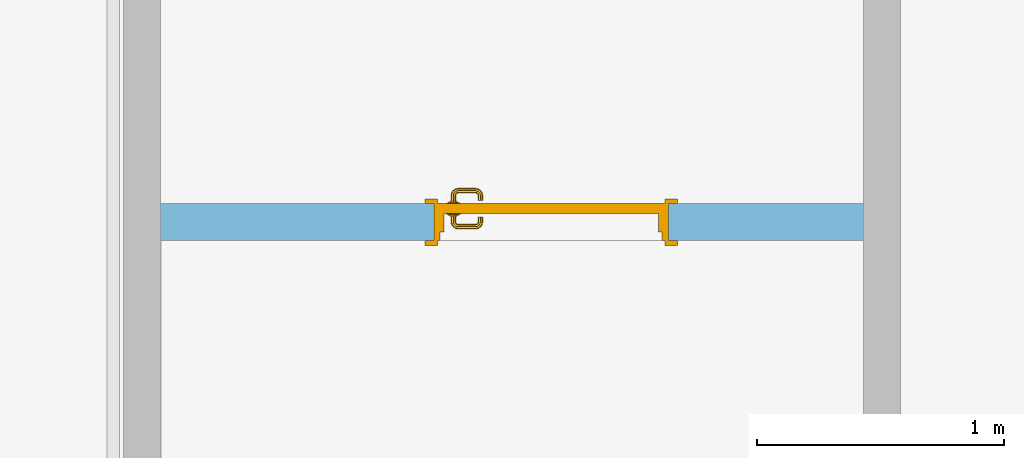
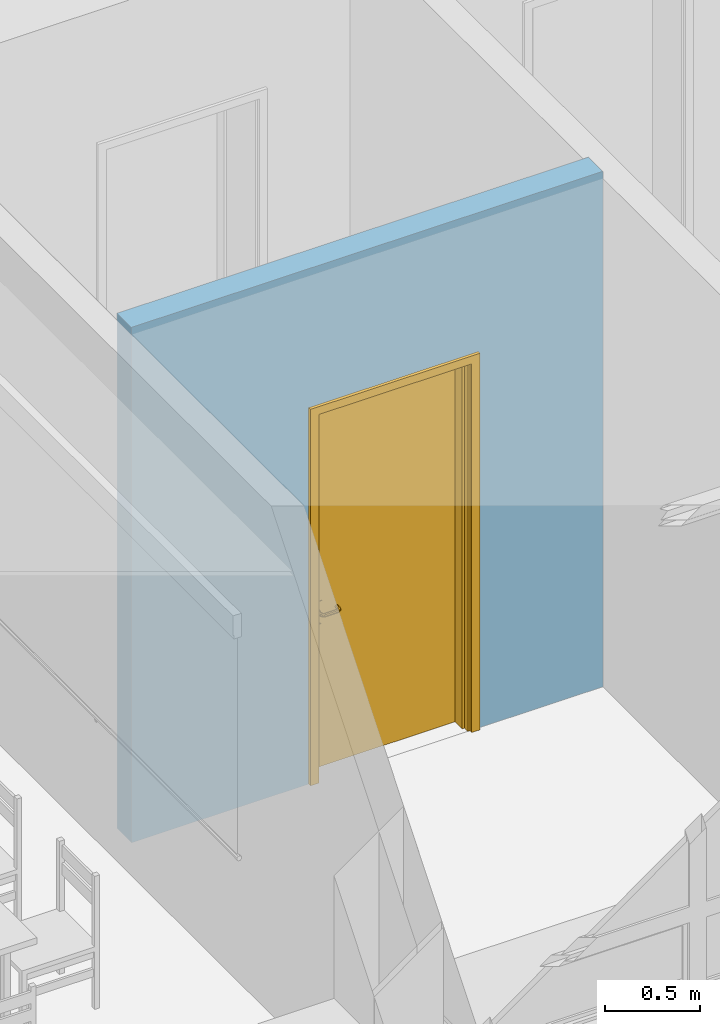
# One storey, part 55 of 194: 1 door, 1 opening, plus 1 element that does not belong to this part.
"""IFC2X3 building model written with IfcOpenShell, lengths in millimetres."""

from ifc_helpers import new_model, entity, si_unit, converted_unit, derived_unit, money_unit, direction, frame, origin_with_axes, origin_2d_with_axis, place, context, subcontext, project, spatial, polyline, rectangle, outline, extrude, open_shell, faceted_brep, surface_model, material, layer, layer_set, layer_usage, type_object, element, fill, save


model = new_model("IFC2X3")

# Units and contexts
model_context = context("Model", 3, precision=1e-05, world=origin_with_axes(), true_north=direction((0.0, 1.0)))
body_context = subcontext(model_context, "Body", "Model", "MODEL_VIEW")
ifc_project = project(units=[si_unit("LENGTHUNIT", "METRE", prefix="MILLI"), si_unit("AREAUNIT", "SQUARE_METRE"), si_unit("VOLUMEUNIT", "CUBIC_METRE"), converted_unit("PLANEANGLEUNIT", "DEGREE", entity("IfcPlaneAngleMeasure", 0.0174532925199), si_unit("PLANEANGLEUNIT", "RADIAN"), dimensions=[0, 0, 0, 0, 0, 0, 0]), si_unit("SOLIDANGLEUNIT", "STERADIAN"), money_unit("EUR"), converted_unit("TIMEUNIT", "Year", entity("IfcTimeMeasure", 31556926.0), si_unit("TIMEUNIT", "SECOND"), dimensions=[0, 0, 1, 0, 0, 0, 0]), si_unit("MASSUNIT", "GRAM", prefix="KILO"), si_unit("THERMODYNAMICTEMPERATUREUNIT", "DEGREE_CELSIUS"), si_unit("LUMINOUSINTENSITYUNIT", "LUMEN"), si_unit("ENERGYUNIT", "JOULE", prefix="MEGA"), derived_unit("THERMALCONDUCTANCEUNIT", [(si_unit("POWERUNIT", "WATT"), 1), (si_unit("LENGTHUNIT", "METRE"), -1), (si_unit("THERMODYNAMICTEMPERATUREUNIT", "KELVIN"), -1)]), derived_unit("SPECIFICHEATCAPACITYUNIT", [(si_unit("ENERGYUNIT", "JOULE"), 1), (si_unit("MASSUNIT", "GRAM", prefix="KILO"), -1), (si_unit("THERMODYNAMICTEMPERATUREUNIT", "KELVIN"), -1)]), derived_unit("MASSDENSITYUNIT", [(si_unit("MASSUNIT", "GRAM", prefix="KILO"), 1), (si_unit("VOLUMEUNIT", "CUBIC_METRE"), -1)])], contexts=[model_context])

# Site, building, storey
site_placement = place(None, origin_with_axes())
site = spatial("IfcSite", under=ifc_project, at=site_placement, Name="Site", CompositionType="ELEMENT")
building_placement = place(site_placement, origin_with_axes())
building = spatial("IfcBuilding", under=site, at=building_placement, Name="Building", CompositionType="ELEMENT")
storey_placement = place(building_placement, frame((0.0, 0.0, 3000.0), z_axis=(0.0, 0.0, 1.0), x_axis=(1.0, 0.0, 0.0)))
storey = spatial("IfcBuildingStorey", under=building, at=storey_placement, Name="2 KORRUS", CompositionType="ELEMENT", Elevation=3000.0)

# Wall, opening, door
ifc_material = material(Name="Kivi -  Uus Konstruktsioon")
ifc_layer = layer(ifc_material, 150.0, ventilated="UNKNOWN")
ifc_layer_set = layer_set([ifc_layer], Name="uus ss 150")
ifc_layer_usage = layer_usage(ifc_layer_set, "AXIS2", "NEGATIVE", 0.0)
wall_type = type_object("IfcWallType", Name="SS-1", PredefinedType="NOTDEFINED")
wall_placement = place(storey_placement, frame((49155.1743177, 38181.6242698, 0.0), z_axis=(0.0, 0.0, 1.0), x_axis=(1.0, 0.0, 0.0)))
wall = element("IfcWallStandardCase", 1, at=wall_placement, inside=storey, type_object=wall_type, material=ifc_layer_usage, Name="sahti sein", context=body_context, shape_type="SweptSolid", body=[
    extrude(outline(polyline([(0.0, -150.0), (2850.0, -150.0), (2850.0, 0.0), (0.0, 0.0), (0.0, -150.0)])), origin_with_axes(), (0.0, 0.0, 1.0), 3294.8304041),
])
opening_placement = place(wall_placement, frame((1584.04536966, 0.0, 0.0), z_axis=(0.0, 0.0, 1.0), x_axis=(1.0, 0.0, 0.0)))
opening = element("IfcOpeningElement", 2, at=opening_placement, cuts=wall, Name="Siseuks * Door 22", context=body_context, shape_type="SweptSolid", body=[
    extrude(rectangle(XDim=950.0, YDim=2370.0, at=origin_2d_with_axis()), frame((0.0, -150.0, 1185.0), z_axis=(0.0, 1.0, 0.0), x_axis=(1.0, 0.0, 0.0)), (0.0, 0.0, 1.0), 450.0),
    extrude(rectangle(XDim=1024.0, YDim=2407.0, at=origin_2d_with_axis()), frame((0.0, -150.0, 1203.5), z_axis=(0.0, 1.0, 0.0), x_axis=(1.0, 0.0, 0.0)), (0.0, 0.0, -1.0), 150.0),
    extrude(rectangle(XDim=1024.0, YDim=2407.0, at=origin_2d_with_axis()), frame((0.0, 0.0, 1203.5), z_axis=(0.0, -1.0, 0.0), x_axis=(1.0, 0.0, 0.0)), (0.0, 0.0, -1.0), 150.0),
])
door_style = type_object("IfcDoorStyle", Name="SU-B220B   950×2\xa0370", ConstructionType="NOTDEFINED", OperationType="SINGLE_SWING_RIGHT", ParameterTakesPrecedence=False, Sizeable=False)
door_placement = place(opening_placement, frame((-475.0, 0.0, 0.0), z_axis=(0.0, 0.0, 1.0), x_axis=(1.0, 0.0, 0.0)))
door = element("IfcDoor", 3, at=door_placement, inside=storey, type_object=door_style, Name="Siseuks * Door 22", OverallHeight=2370.0, OverallWidth=950.0, context=body_context, shape_type="SurfaceModel", body=[
    faceted_brep([(0.0, -115.0, 0.0), (25.0, -115.0, 0.0), (25.0, -150.0, 0.0), (0.0, -150.0, 0.0), (0.0, -115.0, 2370.0), (25.0, -115.0, 2345.0), (25.0, -150.0, 2345.0), (0.0, -150.0, 2370.0)], [[[0, 1, 2, 3]], [[0, 4, 5, 1]], [[1, 5, 6, 2]], [[3, 2, 6, 7]], [[4, 0, 3, 7]], [[5, 4, 7, 6]]]),
    faceted_brep([(950.0, -115.0, 2370.0), (925.0, -115.0, 2345.0), (925.0, -150.0, 2345.0), (950.0, -150.0, 2370.0), (950.0, -115.0, 0.0), (925.0, -115.0, 0.0), (925.0, -150.0, 0.0), (950.0, -150.0, 0.0)], [[[0, 1, 2, 3]], [[0, 4, 5, 1]], [[1, 5, 6, 2]], [[3, 2, 6, 7]], [[4, 0, 3, 7]], [[5, 4, 7, 6]]]),
    faceted_brep([(25.0, -115.0, 2345.0), (925.0, -115.0, 2345.0), (925.0, -150.0, 2345.0), (25.0, -150.0, 2345.0), (0.0, -115.0, 2370.0), (950.0, -115.0, 2370.0), (950.0, -150.0, 2370.0), (0.0, -150.0, 2370.0)], [[[0, 1, 2, 3]], [[0, 4, 5, 1]], [[1, 5, 6, 2]], [[3, 2, 6, 7]], [[4, 0, 3, 7]], [[5, 4, 7, 6]]]),
    faceted_brep([(-36.9999999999, -169.0, 0.0), (-36.9999999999, -150.0, 0.0), (13.0, -150.0, 0.0), (13.0, -169.0, 0.0), (-36.9999999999, -169.0, 2407.0), (-36.9999999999, -150.0, 2407.0), (13.0, -150.0, 2357.0), (13.0, -169.0, 2357.0)], [[[0, 1, 2, 3]], [[4, 5, 1, 0]], [[1, 5, 6, 2]], [[3, 2, 6, 7]], [[0, 3, 7, 4]], [[7, 6, 5, 4]]]),
    faceted_brep([(987.0, -169.0, 2407.0), (987.0, -150.0, 2407.0), (937.0, -150.0, 2357.0), (937.0, -169.0, 2357.0), (987.0, -169.0, 0.0), (987.0, -150.0, 0.0), (937.0, -150.0, 0.0), (937.0, -169.0, 0.0)], [[[0, 1, 2, 3]], [[4, 5, 1, 0]], [[1, 5, 6, 2]], [[3, 2, 6, 7]], [[0, 3, 7, 4]], [[7, 6, 5, 4]]]),
    faceted_brep([(-36.9999999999, -169.0, 2407.0), (-36.9999999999, -150.0, 2407.0), (13.0, -150.0, 2357.0), (13.0, -169.0, 2357.0), (987.0, -169.0, 2407.0), (987.0, -150.0, 2407.0), (937.0, -150.0, 2357.0), (937.0, -169.0, 2357.0)], [[[0, 1, 2, 3]], [[4, 5, 1, 0]], [[1, 5, 6, 2]], [[3, 2, 6, 7]], [[0, 3, 7, 4]], [[7, 6, 5, 4]]]),
    faceted_brep([(-36.9999999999, 19.0000000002, 0.0), (13.0, 19.0000000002, 0.0), (13.0, 0.0, 0.0), (-36.9999999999, 0.0, 0.0), (-36.9999999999, 19.0000000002, 2407.0), (13.0, 19.0000000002, 2357.0), (13.0, 0.0, 2357.0), (-36.9999999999, 0.0, 2407.0)], [[[0, 1, 2, 3]], [[0, 4, 5, 1]], [[1, 5, 6, 2]], [[3, 2, 6, 7]], [[4, 0, 3, 7]], [[5, 4, 7, 6]]]),
    faceted_brep([(987.0, 19.0000000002, 2407.0), (937.0, 19.0000000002, 2357.0), (937.0, 0.0, 2357.0), (987.0, 0.0, 2407.0), (987.0, 19.0000000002, 0.0), (937.0, 19.0000000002, 0.0), (937.0, 0.0, 0.0), (987.0, 0.0, 0.0)], [[[0, 1, 2, 3]], [[0, 4, 5, 1]], [[1, 5, 6, 2]], [[3, 2, 6, 7]], [[4, 0, 3, 7]], [[5, 4, 7, 6]]]),
    faceted_brep([(-36.9999999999, 19.0000000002, 2407.0), (13.0, 19.0000000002, 2357.0), (13.0, 0.0, 2357.0), (-36.9999999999, 0.0, 2407.0), (987.0, 19.0000000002, 2407.0), (937.0, 19.0000000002, 2357.0), (937.0, 0.0, 2357.0), (987.0, 0.0, 2407.0)], [[[0, 1, 2, 3]], [[0, 4, 5, 1]], [[1, 5, 6, 2]], [[3, 2, 6, 7]], [[4, 0, 3, 7]], [[5, 4, 7, 6]]]),
    faceted_brep([(40.0000000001, -40.0, 0.0), (40.0000000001, -40.0, 2330.0), (40.0000000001, -115.0, 2330.0), (40.0000000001, -115.0, 0.0), (28.0, -40.0, 2330.0), (28.0, -40.0, 0.0), (28.0, 0.0, 2330.0), (0.0, 0.0, 2330.0), (0.0, -115.0, 2330.0), (0.0, -115.0, 0.0), (0.0, 0.0, 0.0), (28.0, 0.0, 0.0)], [[[0, 1, 2, 3]], [[4, 1, 0, 5]], [[4, 6, 7, 8, 2, 1]], [[3, 2, 8, 9]], [[5, 0, 3, 9, 10, 11]], [[6, 4, 5, 11]], [[6, 11, 10, 7]], [[10, 9, 8, 7]]]),
    faceted_brep([(922.0, -40.0, 2330.0), (910.0, -40.0, 2330.0), (910.0, -115.0, 2330.0), (950.0, -115.0, 2330.0), (950.0, 0.0, 2330.0), (922.0, 0.0, 2330.0), (922.0, -40.0, 0.0), (910.0, -40.0, 0.0), (910.0, -115.0, 0.0), (950.0, -115.0, 0.0), (950.0, 0.0, 0.0), (922.0, 0.0, 0.0)], [[[0, 1, 2, 3, 4, 5]], [[1, 0, 6, 7]], [[1, 7, 8, 2]], [[3, 2, 8, 9]], [[4, 3, 9, 10]], [[11, 5, 4, 10]], [[0, 5, 11, 6]], [[6, 11, 10, 9, 8, 7]]]),
    faceted_brep([(28.0, 0.0, 2342.0), (28.0, 0.0, 2330.0), (0.0, 0.0, 2330.0), (0.0, 0.0, 2370.0), (950.0, 0.0, 2370.0), (950.0, 0.0, 2330.0), (922.0, 0.0, 2330.0), (922.0, 0.0, 2342.0), (28.0, -40.0, 2342.0), (28.0, -40.0, 2330.0), (40.0000000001, -40.0, 2330.0), (40.0000000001, -115.0, 2330.0), (0.0, -115.0, 2330.0), (0.0, -115.0, 2370.0), (950.0, -115.0, 2370.0), (950.0, -115.0, 2330.0), (922.0, -40.0, 2330.0), (910.0, -115.0, 2330.0), (910.0, -40.0, 2330.0), (922.0, -40.0, 2342.0)], [[[0, 1, 2, 3, 4, 5, 6, 7]], [[1, 0, 8, 9]], [[9, 10, 11, 12, 2, 1]], [[2, 12, 13, 3]], [[3, 13, 14, 4]], [[4, 14, 15, 5]], [[16, 6, 5, 15, 17, 18]], [[7, 6, 16, 19]], [[0, 7, 19, 8]], [[16, 18, 10, 9, 8, 19]], [[10, 18, 17, 11]], [[17, 15, 14, 13, 12, 11]]]),
    faceted_brep([(49.5, -40.0, 1060.0), (49.5, -42.9999999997, 1060.0), (106.5, -42.9999999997, 1060.0), (106.5, -40.0, 1060.0), (49.5, -40.0, 870.0), (49.5, -42.9999999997, 870.0), (106.5, -42.9999999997, 870.0), (106.5, -40.0, 870.0)], [[[0, 1, 2, 3]], [[4, 5, 1, 0]], [[1, 5, 6, 2]], [[3, 2, 6, 7]], [[0, 3, 7, 4]], [[7, 6, 5, 4]]]),
    surface_model("IfcShellBasedSurfaceModel", [(88.0000000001, -52.9999999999, 1000.0), (88.0000000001, -72.0150859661, 1000.0), (85.0710678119, -72.3035606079, 992.928932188), (85.0710678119, -52.9999999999, 992.928932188), (85.0710678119, -52.9999999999, 1007.07106781), (85.0710678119, -72.3035606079, 1007.07106781), (88.9422033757, -76.7518622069, 1000.0), (86.1832095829, -77.8946748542, 992.928932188), (78.0, -73.0000000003, 990.0), (78.0, -52.9999999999, 990.0), (78.0, -52.9999999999, 1010.0), (78.0, -73.0000000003, 1010.0), (86.1832095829, -77.8946748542, 1007.07106781), (91.0674625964, -79.9325374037, 1000.0), (88.9558201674, -82.0441798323, 992.928932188), (79.5224093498, -80.6536686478, 990.0), (70.9289321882, -73.6964393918, 992.928932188), (70.9289321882, -52.9999999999, 992.928932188), (70.9289321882, -52.9999999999, 1007.07106781), (70.9289321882, -73.6964393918, 1007.07106781), (79.5224093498, -80.6536686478, 1010.0), (88.9558201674, -82.0441798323, 1007.07106781), (94.248137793, -82.0577966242, 1000.0), (93.1053251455, -84.8167904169, 992.928932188), (83.8578643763, -87.1421356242, 990.0), (72.8616091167, -83.4126624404, 992.928932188), (68.0, -73.9849140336, 1000.0), (68.0, -52.9999999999, 1000.0), (72.8616091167, -83.4126624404, 1007.07106781), (83.8578643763, -87.1421356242, 1010.0), (93.1053251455, -84.8167904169, 1007.07106781), (98.9849140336, -82.9999999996, 1000.0), (98.696439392, -85.9289321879, 992.928932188), (90.3463313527, -91.4775906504, 990.0), (78.7599085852, -92.2400914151, 992.928932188), (70.1026153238, -84.5554750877, 1000.0), (78.7599085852, -92.2400914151, 1007.07106781), (90.3463313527, -91.4775906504, 1010.0), (98.696439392, -85.9289321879, 1007.07106781), (167.015085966, -82.9999999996, 1000.0), (167.303560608, -85.9289321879, 992.928932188), (98.0000000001, -92.9999999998, 990.0), (87.5873375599, -98.1383908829, 992.928932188), (76.6482661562, -94.3517338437, 1000.0), (87.5873375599, -98.1383908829, 1007.07106781), (98.0000000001, -92.9999999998, 1010.0), (167.303560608, -85.9289321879, 1007.07106781), (171.751862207, -82.0577966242, 1000.0), (172.894674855, -84.8167904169, 992.928932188), (168.0, -92.9999999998, 990.0), (97.303560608, -100.071067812, 992.928932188), (86.4445249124, -100.897384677, 1000.0), (97.303560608, -100.071067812, 1007.07106781), (168.0, -92.9999999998, 1010.0), (172.894674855, -84.8167904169, 1007.07106781), (174.932537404, -79.9325374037, 1000.0), (177.044179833, -82.0441798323, 992.928932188), (175.653668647, -91.4775906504, 990.0), (168.696439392, -100.071067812, 992.928932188), (97.0150859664, -103.0, 1000.0), (168.696439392, -100.071067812, 1007.07106781), (175.653668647, -91.4775906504, 1010.0), (177.044179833, -82.0441798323, 1007.07106781), (177.057796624, -76.7518622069, 1000.0), (179.816790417, -77.8946748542, 992.928932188), (182.142135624, -87.1421356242, 990.0), (178.41266244, -98.1383908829, 992.928932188), (168.984914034, -103.0, 1000.0), (178.41266244, -98.1383908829, 1007.07106781), (182.142135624, -87.1421356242, 1010.0), (179.816790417, -77.8946748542, 1007.07106781), (178.0, -72.0150859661, 1000.0), (180.928932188, -72.3035606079, 992.928932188), (186.47759065, -80.6536686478, 990.0), (187.240091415, -92.2400914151, 992.928932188), (179.555475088, -100.897384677, 1000.0), (187.240091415, -92.2400914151, 1007.07106781), (186.47759065, -80.6536686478, 1010.0), (180.928932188, -72.3035606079, 1007.07106781), (178.0, -52.9999999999, 1000.0), (180.928932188, -52.9999999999, 992.928932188), (188.0, -73.0000000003, 990.0), (193.138390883, -83.4126624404, 992.928932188), (189.351733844, -94.3517338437, 1000.0), (193.138390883, -83.4126624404, 1007.07106781), (188.0, -73.0000000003, 1010.0), (180.928932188, -52.9999999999, 1007.07106781), (188.0, -52.9999999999, 1010.0), (195.071067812, -52.9999999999, 1007.07106781), (198.0, -52.9999999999, 1000.0), (195.071067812, -52.9999999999, 992.928932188), (188.0, -52.9999999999, 990.0), (195.071067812, -73.6964393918, 992.928932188), (195.897384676, -84.5554750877, 1000.0), (195.071067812, -73.6964393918, 1007.07106781), (198.0, -73.9849140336, 1000.0)], [open_shell([[[0, 1, 2, 3]], [[4, 5, 1, 0]], [[1, 6, 7, 2]], [[3, 2, 8, 9]], [[10, 11, 5, 4]], [[5, 12, 6, 1]], [[6, 13, 14, 7]], [[2, 7, 15, 8]], [[9, 8, 16, 17]], [[18, 19, 11, 10]], [[11, 20, 12, 5]], [[12, 21, 13, 6]], [[13, 22, 23, 14]], [[7, 14, 24, 15]], [[8, 15, 25, 16]], [[17, 16, 26, 27]], [[27, 26, 19, 18]], [[19, 28, 20, 11]], [[20, 29, 21, 12]], [[21, 30, 22, 13]], [[22, 31, 32, 23]], [[14, 23, 33, 24]], [[15, 24, 34, 25]], [[16, 25, 35, 26]], [[26, 35, 28, 19]], [[28, 36, 29, 20]], [[29, 37, 30, 21]], [[30, 38, 31, 22]], [[31, 39, 40, 32]], [[23, 32, 41, 33]], [[24, 33, 42, 34]], [[25, 34, 43, 35]], [[35, 43, 36, 28]], [[36, 44, 37, 29]], [[37, 45, 38, 30]], [[38, 46, 39, 31]], [[39, 47, 48, 40]], [[32, 40, 49, 41]], [[33, 41, 50, 42]], [[34, 42, 51, 43]], [[43, 51, 44, 36]], [[44, 52, 45, 37]], [[45, 53, 46, 38]], [[46, 54, 47, 39]], [[47, 55, 56, 48]], [[40, 48, 57, 49]], [[41, 49, 58, 50]], [[42, 50, 59, 51]], [[51, 59, 52, 44]], [[52, 60, 53, 45]], [[53, 61, 54, 46]], [[54, 62, 55, 47]], [[55, 63, 64, 56]], [[48, 56, 65, 57]], [[49, 57, 66, 58]], [[50, 58, 67, 59]], [[59, 67, 60, 52]], [[60, 68, 61, 53]], [[61, 69, 62, 54]], [[62, 70, 63, 55]], [[63, 71, 72, 64]], [[56, 64, 73, 65]], [[57, 65, 74, 66]], [[58, 66, 75, 67]], [[67, 75, 68, 60]], [[68, 76, 69, 61]], [[69, 77, 70, 62]], [[70, 78, 71, 63]], [[71, 79, 80, 72]], [[64, 72, 81, 73]], [[65, 73, 82, 74]], [[66, 74, 83, 75]], [[75, 83, 76, 68]], [[76, 84, 77, 69]], [[77, 85, 78, 70]], [[78, 86, 79, 71]], [[79, 86, 87, 88, 89, 90, 91, 80]], [[72, 80, 91, 81]], [[73, 81, 92, 82]], [[74, 82, 93, 83]], [[83, 93, 84, 76]], [[84, 94, 85, 77]], [[85, 87, 86, 78]], [[94, 88, 87, 85]], [[95, 89, 88, 94]], [[92, 90, 89, 95]], [[81, 91, 90, 92]], [[82, 92, 95, 93]], [[93, 95, 94, 84]]])]),
    faceted_brep([(88.3923048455, -52.9999999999, 994.0), (89.2583302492, -42.9999999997, 993.5), (91.0, -42.9999999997, 1000.0), (90.0, -52.9999999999, 1000.0), (84.0000000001, -52.9999999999, 989.607695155), (84.5, -42.9999999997, 988.741669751), (78.0, -42.9999999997, 987.0), (71.5, -42.9999999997, 988.741669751), (66.7416697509, -42.9999999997, 993.5), (65.0000000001, -42.9999999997, 1000.0), (66.7416697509, -42.9999999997, 1006.5), (71.5, -42.9999999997, 1011.25833025), (78.0, -42.9999999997, 1013.0), (84.5, -42.9999999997, 1011.25833025), (89.2583302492, -42.9999999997, 1006.5), (88.3923048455, -52.9999999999, 1006.0), (84.0000000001, -52.9999999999, 1010.39230485), (78.0, -52.9999999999, 1012.0), (72.0, -52.9999999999, 1010.39230485), (67.6076951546, -52.9999999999, 1006.0), (66.0, -52.9999999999, 1000.0), (67.6076951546, -52.9999999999, 994.0), (72.0, -52.9999999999, 989.607695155), (78.0, -52.9999999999, 988.0)], [[[0, 1, 2, 3]], [[4, 5, 1, 0]], [[2, 1, 5, 6, 7, 8, 9, 10, 11, 12, 13, 14]], [[3, 2, 14, 15]], [[3, 15, 16, 17, 18, 19, 20, 21, 22, 23, 4, 0]], [[23, 6, 5, 4]], [[22, 7, 6, 23]], [[21, 8, 7, 22]], [[20, 9, 8, 21]], [[19, 10, 9, 20]], [[18, 11, 10, 19]], [[17, 12, 11, 18]], [[16, 13, 12, 17]], [[15, 14, 13, 16]]]),
    faceted_brep([(95.3205080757, -46.9999999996, 895.0), (97.0525588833, -42.9999999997, 894.0), (100.0, -42.9999999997, 905.0), (98.0000000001, -46.9999999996, 905.0), (88.0000000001, -46.9999999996, 887.679491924), (89.0000000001, -42.9999999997, 885.947441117), (78.0, -42.9999999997, 883.0), (67.0, -42.9999999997, 885.947441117), (58.9474411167, -42.9999999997, 894.0), (56.0, -42.9999999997, 905.0), (58.9474411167, -42.9999999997, 916.0), (67.0, -42.9999999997, 924.052558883), (78.0, -42.9999999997, 927.0), (89.0000000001, -42.9999999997, 924.052558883), (97.0525588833, -42.9999999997, 916.0), (95.3205080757, -46.9999999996, 915.0), (88.0000000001, -46.9999999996, 922.320508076), (78.0, -46.9999999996, 925.0), (68.0, -46.9999999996, 922.320508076), (60.6794919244, -46.9999999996, 915.0), (58.0, -46.9999999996, 905.0), (60.6794919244, -46.9999999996, 895.0), (68.0, -46.9999999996, 887.679491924), (78.0, -46.9999999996, 885.0)], [[[0, 1, 2, 3]], [[4, 5, 1, 0]], [[2, 1, 5, 6, 7, 8, 9, 10, 11, 12, 13, 14]], [[3, 2, 14, 15]], [[3, 15, 16, 17, 18, 19, 20, 21, 22, 23, 4, 0]], [[23, 6, 5, 4]], [[22, 7, 6, 23]], [[21, 8, 7, 22]], [[20, 9, 8, 21]], [[19, 10, 9, 20]], [[18, 11, 10, 19]], [[17, 12, 11, 18]], [[16, 13, 12, 17]], [[15, 14, 13, 16]]]),
    faceted_brep([(82.9497474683, -49.0, 909.050252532), (83.6568542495, -46.9999999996, 908.343145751), (86.0, -46.9999999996, 914.0), (85.0, -49.0, 914.0), (78.0, -49.0, 907.0), (78.0, -46.9999999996, 906.0), (72.3431457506, -46.9999999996, 908.343145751), (70.0000000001, -46.9999999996, 914.0), (72.3431457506, -46.9999999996, 919.656854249), (78.0, -46.9999999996, 922.0), (83.6568542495, -46.9999999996, 919.656854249), (82.9497474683, -49.0, 918.949747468), (78.0, -49.0, 921.0), (73.0502525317, -49.0, 918.949747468), (71.0, -49.0, 914.0), (73.0502525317, -49.0, 909.050252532)], [[[0, 1, 2, 3]], [[4, 5, 1, 0]], [[2, 1, 5, 6, 7, 8, 9, 10]], [[3, 2, 10, 11]], [[3, 11, 12, 13, 14, 15, 4, 0]], [[15, 6, 5, 4]], [[14, 7, 6, 15]], [[13, 8, 7, 14]], [[12, 9, 8, 13]], [[11, 10, 9, 12]]]),
    faceted_brep([(49.5, 0.0, 1060.0), (106.5, 0.0, 1060.0), (106.5, 2.9999999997, 1060.0), (49.5, 2.9999999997, 1060.0), (49.5, 0.0, 870.0), (106.5, 0.0, 870.0), (106.5, 2.9999999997, 870.0), (49.5, 2.9999999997, 870.0)], [[[0, 1, 2, 3]], [[0, 4, 5, 1]], [[1, 5, 6, 2]], [[3, 2, 6, 7]], [[4, 0, 3, 7]], [[5, 4, 7, 6]]]),
    surface_model("IfcShellBasedSurfaceModel", [(88.0000000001, 12.9999999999, 1000.0), (85.0710678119, 12.9999999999, 992.928932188), (85.0710678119, 32.3035606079, 992.928932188), (88.0000000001, 32.0150859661, 1000.0), (78.0, 12.9999999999, 990.0), (78.0, 33.0000000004, 990.0), (86.1832095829, 37.8946748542, 992.928932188), (88.9422033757, 36.751862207, 1000.0), (85.0710678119, 12.9999999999, 1007.07106781), (85.0710678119, 32.3035606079, 1007.07106781), (70.9289321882, 12.9999999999, 992.928932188), (70.9289321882, 33.6964393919, 992.928932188), (79.5224093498, 40.6536686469, 990.0), (88.9558201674, 42.0441798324, 992.928932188), (91.0674625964, 39.9325374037, 1000.0), (86.1832095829, 37.8946748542, 1007.07106781), (78.0, 12.9999999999, 1010.0), (78.0, 33.0000000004, 1010.0), (68.0, 12.9999999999, 1000.0), (68.0, 33.9849140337, 1000.0), (72.8616091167, 43.4126624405, 992.928932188), (83.8578643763, 47.1421356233, 990.0), (93.1053251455, 44.8167904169, 992.928932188), (94.248137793, 42.0577966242, 1000.0), (88.9558201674, 42.0441798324, 1007.07106781), (79.5224093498, 40.6536686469, 1010.0), (70.9289321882, 12.9999999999, 1007.07106781), (70.9289321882, 33.6964393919, 1007.07106781), (70.1026153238, 44.5554750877, 1000.0), (78.7599085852, 52.2400914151, 992.928932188), (90.3463313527, 51.4775906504, 990.0), (98.696439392, 45.928932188, 992.928932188), (98.9849140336, 42.9999999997, 1000.0), (93.1053251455, 44.8167904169, 1007.07106781), (83.8578643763, 47.1421356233, 1010.0), (72.8616091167, 43.4126624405, 1007.07106781), (76.6482661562, 54.3517338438, 1000.0), (87.5873375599, 58.138390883, 992.928932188), (98.0000000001, 52.9999999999, 990.0), (167.303560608, 45.928932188, 992.928932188), (167.015085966, 42.9999999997, 1000.0), (98.696439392, 45.928932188, 1007.07106781), (90.3463313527, 51.4775906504, 1010.0), (78.7599085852, 52.2400914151, 1007.07106781), (86.4445249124, 60.8973846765, 1000.0), (97.303560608, 60.0710678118, 992.928932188), (168.0, 52.9999999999, 990.0), (172.894674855, 44.8167904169, 992.928932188), (171.751862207, 42.0577966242, 1000.0), (167.303560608, 45.928932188, 1007.07106781), (98.0000000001, 52.9999999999, 1010.0), (87.5873375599, 58.138390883, 1007.07106781), (97.0150859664, 63.0000000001, 1000.0), (168.696439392, 60.0710678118, 992.928932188), (175.653668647, 51.4775906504, 990.0), (177.044179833, 42.0441798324, 992.928932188), (174.932537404, 39.9325374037, 1000.0), (172.894674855, 44.8167904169, 1007.07106781), (168.0, 52.9999999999, 1010.0), (97.303560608, 60.0710678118, 1007.07106781), (168.984914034, 63.0000000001, 1000.0), (178.41266244, 58.138390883, 992.928932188), (182.142135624, 47.1421356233, 990.0), (179.816790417, 37.8946748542, 992.928932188), (177.057796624, 36.751862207, 1000.0), (177.044179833, 42.0441798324, 1007.07106781), (175.653668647, 51.4775906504, 1010.0), (168.696439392, 60.0710678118, 1007.07106781), (179.555475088, 60.8973846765, 1000.0), (187.240091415, 52.2400914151, 992.928932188), (186.47759065, 40.6536686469, 990.0), (180.928932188, 32.3035606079, 992.928932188), (178.0, 32.0150859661, 1000.0), (179.816790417, 37.8946748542, 1007.07106781), (182.142135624, 47.1421356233, 1010.0), (178.41266244, 58.138390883, 1007.07106781), (189.351733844, 54.3517338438, 1000.0), (193.138390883, 43.4126624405, 992.928932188), (188.0, 33.0000000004, 990.0), (180.928932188, 12.9999999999, 992.928932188), (178.0, 12.9999999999, 1000.0), (180.928932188, 32.3035606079, 1007.07106781), (186.47759065, 40.6536686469, 1010.0), (187.240091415, 52.2400914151, 1007.07106781), (195.897384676, 44.5554750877, 1000.0), (195.071067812, 33.6964393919, 992.928932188), (188.0, 12.9999999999, 990.0), (195.071067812, 12.9999999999, 992.928932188), (198.0, 12.9999999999, 1000.0), (195.071067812, 12.9999999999, 1007.07106781), (188.0, 12.9999999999, 1010.0), (180.928932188, 12.9999999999, 1007.07106781), (188.0, 33.0000000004, 1010.0), (193.138390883, 43.4126624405, 1007.07106781), (198.0, 33.9849140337, 1000.0), (195.071067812, 33.6964393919, 1007.07106781)], [open_shell([[[0, 1, 2, 3]], [[1, 4, 5, 2]], [[3, 2, 6, 7]], [[8, 0, 3, 9]], [[4, 10, 11, 5]], [[2, 5, 12, 6]], [[7, 6, 13, 14]], [[9, 3, 7, 15]], [[16, 8, 9, 17]], [[10, 18, 19, 11]], [[5, 11, 20, 12]], [[6, 12, 21, 13]], [[14, 13, 22, 23]], [[15, 7, 14, 24]], [[17, 9, 15, 25]], [[26, 16, 17, 27]], [[18, 26, 27, 19]], [[11, 19, 28, 20]], [[12, 20, 29, 21]], [[13, 21, 30, 22]], [[23, 22, 31, 32]], [[24, 14, 23, 33]], [[25, 15, 24, 34]], [[27, 17, 25, 35]], [[19, 27, 35, 28]], [[20, 28, 36, 29]], [[21, 29, 37, 30]], [[22, 30, 38, 31]], [[32, 31, 39, 40]], [[33, 23, 32, 41]], [[34, 24, 33, 42]], [[35, 25, 34, 43]], [[28, 35, 43, 36]], [[29, 36, 44, 37]], [[30, 37, 45, 38]], [[31, 38, 46, 39]], [[40, 39, 47, 48]], [[41, 32, 40, 49]], [[42, 33, 41, 50]], [[43, 34, 42, 51]], [[36, 43, 51, 44]], [[37, 44, 52, 45]], [[38, 45, 53, 46]], [[39, 46, 54, 47]], [[48, 47, 55, 56]], [[49, 40, 48, 57]], [[50, 41, 49, 58]], [[51, 42, 50, 59]], [[44, 51, 59, 52]], [[45, 52, 60, 53]], [[46, 53, 61, 54]], [[47, 54, 62, 55]], [[56, 55, 63, 64]], [[57, 48, 56, 65]], [[58, 49, 57, 66]], [[59, 50, 58, 67]], [[52, 59, 67, 60]], [[53, 60, 68, 61]], [[54, 61, 69, 62]], [[55, 62, 70, 63]], [[64, 63, 71, 72]], [[65, 56, 64, 73]], [[66, 57, 65, 74]], [[67, 58, 66, 75]], [[60, 67, 75, 68]], [[61, 68, 76, 69]], [[62, 69, 77, 70]], [[63, 70, 78, 71]], [[72, 71, 79, 80]], [[73, 64, 72, 81]], [[74, 65, 73, 82]], [[75, 66, 74, 83]], [[68, 75, 83, 76]], [[69, 76, 84, 77]], [[70, 77, 85, 78]], [[71, 78, 86, 79]], [[80, 79, 86, 87, 88, 89, 90, 91]], [[81, 72, 80, 91]], [[82, 73, 81, 92]], [[83, 74, 82, 93]], [[76, 83, 93, 84]], [[77, 84, 94, 85]], [[78, 85, 87, 86]], [[85, 94, 88, 87]], [[94, 95, 89, 88]], [[95, 92, 90, 89]], [[92, 81, 91, 90]], [[93, 82, 92, 95]], [[84, 93, 95, 94]]])]),
    faceted_brep([(88.3923048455, 12.9999999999, 994.0), (90.0, 12.9999999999, 1000.0), (91.0, 2.9999999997, 1000.0), (89.2583302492, 2.9999999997, 993.5), (84.0000000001, 12.9999999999, 989.607695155), (78.0, 12.9999999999, 988.0), (72.0, 12.9999999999, 989.607695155), (67.6076951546, 12.9999999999, 994.0), (66.0, 12.9999999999, 1000.0), (67.6076951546, 12.9999999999, 1006.0), (72.0, 12.9999999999, 1010.39230485), (78.0, 12.9999999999, 1012.0), (84.0000000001, 12.9999999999, 1010.39230485), (88.3923048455, 12.9999999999, 1006.0), (89.2583302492, 2.9999999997, 1006.5), (84.5, 2.9999999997, 1011.25833025), (78.0, 2.9999999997, 1013.0), (71.5, 2.9999999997, 1011.25833025), (66.7416697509, 2.9999999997, 1006.5), (65.0000000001, 2.9999999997, 1000.0), (66.7416697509, 2.9999999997, 993.5), (71.5, 2.9999999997, 988.741669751), (78.0, 2.9999999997, 987.0), (84.5, 2.9999999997, 988.741669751)], [[[0, 1, 2, 3]], [[1, 0, 4, 5, 6, 7, 8, 9, 10, 11, 12, 13]], [[1, 13, 14, 2]], [[2, 14, 15, 16, 17, 18, 19, 20, 21, 22, 23, 3]], [[4, 0, 3, 23]], [[5, 4, 23, 22]], [[6, 5, 22, 21]], [[7, 6, 21, 20]], [[8, 7, 20, 19]], [[9, 8, 19, 18]], [[10, 9, 18, 17]], [[11, 10, 17, 16]], [[12, 11, 16, 15]], [[13, 12, 15, 14]]]),
    faceted_brep([(95.3205080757, 6.99999999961, 895.0), (98.0000000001, 6.99999999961, 905.0), (100.0, 2.9999999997, 905.0), (97.0525588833, 2.9999999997, 894.0), (88.0000000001, 6.99999999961, 887.679491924), (78.0, 6.99999999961, 885.0), (68.0, 6.99999999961, 887.679491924), (60.6794919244, 6.99999999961, 895.0), (58.0, 6.99999999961, 905.0), (60.6794919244, 6.99999999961, 915.0), (68.0, 6.99999999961, 922.320508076), (78.0, 6.99999999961, 925.0), (88.0000000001, 6.99999999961, 922.320508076), (95.3205080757, 6.99999999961, 915.0), (97.0525588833, 2.9999999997, 916.0), (89.0000000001, 2.9999999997, 924.052558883), (78.0, 2.9999999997, 927.0), (67.0, 2.9999999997, 924.052558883), (58.9474411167, 2.9999999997, 916.0), (56.0, 2.9999999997, 905.0), (58.9474411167, 2.9999999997, 894.0), (67.0, 2.9999999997, 885.947441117), (78.0, 2.9999999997, 883.0), (89.0000000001, 2.9999999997, 885.947441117)], [[[0, 1, 2, 3]], [[1, 0, 4, 5, 6, 7, 8, 9, 10, 11, 12, 13]], [[1, 13, 14, 2]], [[2, 14, 15, 16, 17, 18, 19, 20, 21, 22, 23, 3]], [[4, 0, 3, 23]], [[5, 4, 23, 22]], [[6, 5, 22, 21]], [[7, 6, 21, 20]], [[8, 7, 20, 19]], [[9, 8, 19, 18]], [[10, 9, 18, 17]], [[11, 10, 17, 16]], [[12, 11, 16, 15]], [[13, 12, 15, 14]]]),
    faceted_brep([(82.9497474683, 9.00000000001, 909.050252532), (85.0, 9.00000000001, 914.0), (86.0, 6.99999999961, 914.0), (83.6568542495, 6.99999999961, 908.343145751), (78.0, 9.00000000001, 907.0), (73.0502525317, 9.00000000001, 909.050252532), (71.0, 9.00000000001, 914.0), (73.0502525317, 9.00000000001, 918.949747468), (78.0, 9.00000000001, 921.0), (82.9497474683, 9.00000000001, 918.949747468), (83.6568542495, 6.99999999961, 919.656854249), (78.0, 6.99999999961, 922.0), (72.3431457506, 6.99999999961, 919.656854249), (70.0000000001, 6.99999999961, 914.0), (72.3431457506, 6.99999999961, 908.343145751), (78.0, 6.99999999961, 906.0)], [[[0, 1, 2, 3]], [[1, 0, 4, 5, 6, 7, 8, 9]], [[1, 9, 10, 2]], [[2, 10, 11, 12, 13, 14, 15, 3]], [[4, 0, 3, 15]], [[5, 4, 15, 14]], [[6, 5, 14, 13]], [[7, 6, 13, 12]], [[8, 7, 12, 11]], [[9, 8, 11, 10]]]),
    faceted_brep([(922.0, 0.0, 0.0), (922.0, -40.0, 0.0), (28.0, -40.0, 0.0), (28.0, 0.0, 0.0), (922.0, 0.0, 2342.0), (922.0, -40.0, 2342.0), (28.0, -40.0, 2342.0), (28.0, 0.0, 2342.0)], [[[0, 1, 2, 3]], [[4, 5, 1, 0]], [[1, 5, 6, 2]], [[3, 2, 6, 7]], [[0, 3, 7, 4]], [[7, 6, 5, 4]]]),
])
fill(opening, door)

save(model, "model.ifc")
